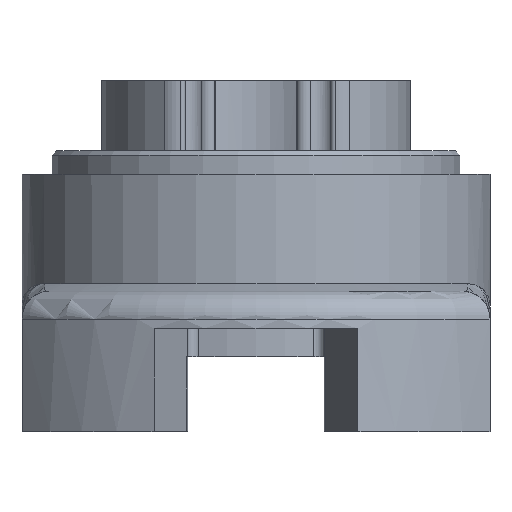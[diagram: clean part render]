
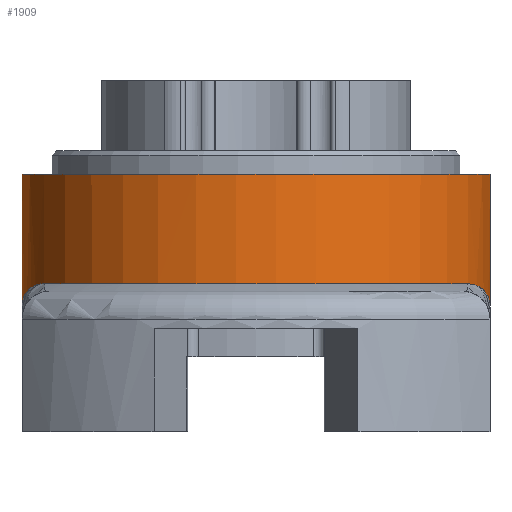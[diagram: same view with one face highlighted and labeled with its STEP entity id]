
A CAD part, left-side view. The second image highlights one B-rep face of the part: STEP entity #1909.
In plain terms, the highlighted cylindrical face has radius 25.15 mm (diameter 50.3 mm), a partial arc.
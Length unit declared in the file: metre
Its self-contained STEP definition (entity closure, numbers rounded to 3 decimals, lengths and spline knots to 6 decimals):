
#51=B_SPLINE_CURVE_WITH_KNOTS('',3,(#3258,#3259,#3260,#3261,#3262,#3263,
#3264,#3265,#3266,#3267,#3268,#3269),.UNSPECIFIED.,.F.,.F.,(4,1,1,1,1,1,
1,1,1,4),(0.,0.000584,0.001168,0.001752,
0.002336,0.003504,0.004671,0.005839,
0.007007,0.009343),.UNSPECIFIED.);
#52=B_SPLINE_CURVE_WITH_KNOTS('',3,(#3273,#3274,#3275,#3276,#3277,#3278,
#3279,#3280,#3281,#3282,#3283,#3284),.UNSPECIFIED.,.F.,.F.,(4,1,1,1,1,1,
1,1,1,4),(0.,0.002289,0.003433,0.004578,
0.005722,0.006866,0.007439,0.008011,
0.008583,0.009155),.UNSPECIFIED.);
#129=CYLINDRICAL_SURFACE('',#2142,0.02515);
#175=LINE('',#2904,#286);
#188=LINE('',#2940,#299);
#286=VECTOR('',#2318,1.);
#299=VECTOR('',#2333,1.);
#689=ORIENTED_EDGE('',*,*,#995,.F.);
#690=ORIENTED_EDGE('',*,*,#1150,.T.);
#691=ORIENTED_EDGE('',*,*,#1151,.T.);
#692=ORIENTED_EDGE('',*,*,#1152,.T.);
#693=ORIENTED_EDGE('',*,*,#1010,.T.);
#694=ORIENTED_EDGE('',*,*,#1153,.F.);
#995=EDGE_CURVE('',#1274,#1275,#175,.F.);
#1010=EDGE_CURVE('',#1289,#1288,#188,.F.);
#1150=EDGE_CURVE('',#1274,#1387,#51,.T.);
#1151=EDGE_CURVE('',#1387,#1388,#1511,.F.);
#1152=EDGE_CURVE('',#1388,#1289,#52,.T.);
#1153=EDGE_CURVE('',#1275,#1288,#1512,.F.);
#1274=VERTEX_POINT('',#2903);
#1275=VERTEX_POINT('',#2905);
#1288=VERTEX_POINT('',#2939);
#1289=VERTEX_POINT('',#2941);
#1387=VERTEX_POINT('',#3270);
#1388=VERTEX_POINT('',#3272);
#1511=CIRCLE('',#2143,0.02515);
#1512=CIRCLE('',#2144,0.02515);
#1608=EDGE_LOOP('',(#689,#690,#691,#692,#693,#694));
#1760=FACE_BOUND('',#1608,.T.);
#1909=ADVANCED_FACE('',(#1760),#129,.T.);
#2142=AXIS2_PLACEMENT_3D('',#3257,#2627,#2628);
#2143=AXIS2_PLACEMENT_3D('',#3271,#2629,#2630);
#2144=AXIS2_PLACEMENT_3D('',#3285,#2631,#2632);
#2318=DIRECTION('',(0.,0.,-1.));
#2333=DIRECTION('',(0.,0.,-1.));
#2627=DIRECTION('',(0.,0.,-1.));
#2628=DIRECTION('',(1.,0.,0.));
#2629=DIRECTION('',(0.,0.,-1.));
#2630=DIRECTION('',(1.,0.,0.));
#2631=DIRECTION('',(0.,0.,-1.));
#2632=DIRECTION('',(1.,0.,0.));
#2903=CARTESIAN_POINT('',(-0.215743,0.03735,-0.058091));
#2904=CARTESIAN_POINT('',(-0.215743,0.03735,1.064099));
#2905=CARTESIAN_POINT('',(-0.215743,0.03735,-0.044));
#2939=CARTESIAN_POINT('',(-0.215743,-0.01265,-0.044));
#2940=CARTESIAN_POINT('',(-0.215743,-0.01265,1.064099));
#2941=CARTESIAN_POINT('',(-0.215743,-0.01265,-0.058091));
#3257=CARTESIAN_POINT('',(-0.213,0.01235,1.064099));
#3258=CARTESIAN_POINT('',(-0.215743,0.03735,-0.058091));
#3259=CARTESIAN_POINT('',(-0.215743,0.03735,-0.057893));
#3260=CARTESIAN_POINT('',(-0.216061,0.037315,-0.057601));
#3261=CARTESIAN_POINT('',(-0.216556,0.037249,-0.05733));
#3262=CARTESIAN_POINT('',(-0.217082,0.037169,-0.057099));
#3263=CARTESIAN_POINT('',(-0.217795,0.037044,-0.056831));
#3264=CARTESIAN_POINT('',(-0.218695,0.036855,-0.056544));
#3265=CARTESIAN_POINT('',(-0.219768,0.036581,-0.056258));
#3266=CARTESIAN_POINT('',(-0.220839,0.036256,-0.056025));
#3267=CARTESIAN_POINT('',(-0.22226,0.035755,-0.055787));
#3268=CARTESIAN_POINT('',(-0.223326,0.035296,-0.0557));
#3269=CARTESIAN_POINT('',(-0.224021,0.034957,-0.0557));
#3270=CARTESIAN_POINT('',(-0.224021,0.034957,-0.0557));
#3271=CARTESIAN_POINT('',(-0.213,0.01235,-0.0557));
#3272=CARTESIAN_POINT('',(-0.224021,-0.010256,-0.0557));
#3273=CARTESIAN_POINT('',(-0.224021,-0.010256,-0.0557));
#3274=CARTESIAN_POINT('',(-0.223326,-0.010595,-0.0557));
#3275=CARTESIAN_POINT('',(-0.222274,-0.011049,-0.055785));
#3276=CARTESIAN_POINT('',(-0.220853,-0.011551,-0.056022));
#3277=CARTESIAN_POINT('',(-0.219776,-0.011878,-0.056256));
#3278=CARTESIAN_POINT('',(-0.218689,-0.012156,-0.056545));
#3279=CARTESIAN_POINT('',(-0.217788,-0.012345,-0.056833));
#3280=CARTESIAN_POINT('',(-0.217076,-0.012469,-0.057101));
#3281=CARTESIAN_POINT('',(-0.216548,-0.01255,-0.057334));
#3282=CARTESIAN_POINT('',(-0.216056,-0.012615,-0.057604));
#3283=CARTESIAN_POINT('',(-0.215743,-0.01265,-0.057896));
#3284=CARTESIAN_POINT('',(-0.215743,-0.01265,-0.058091));
#3285=CARTESIAN_POINT('',(-0.213,0.01235,-0.044));
